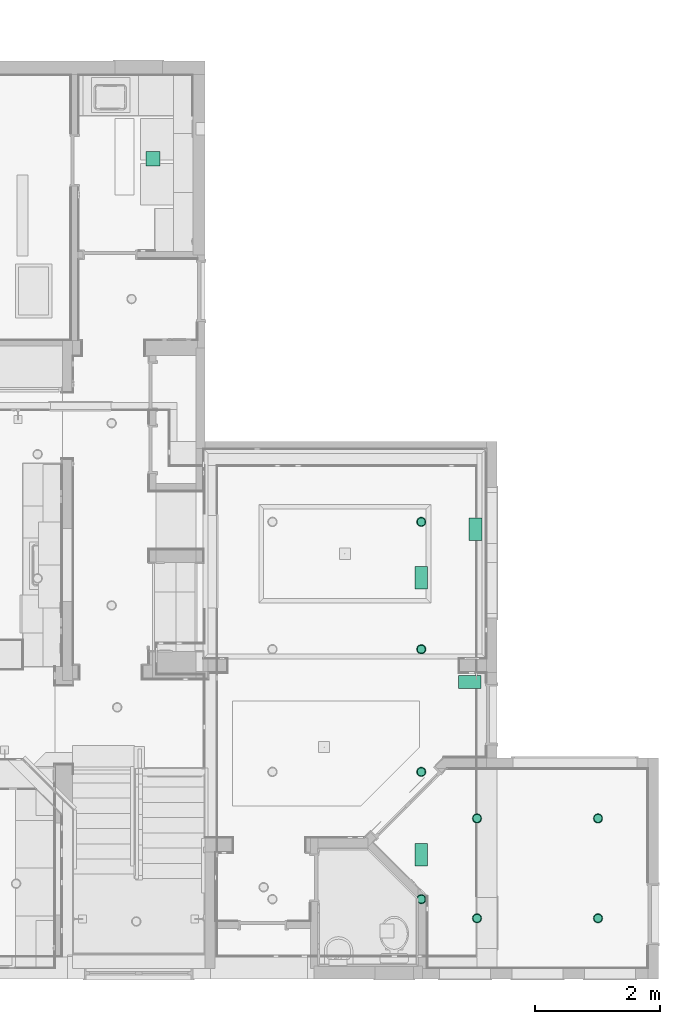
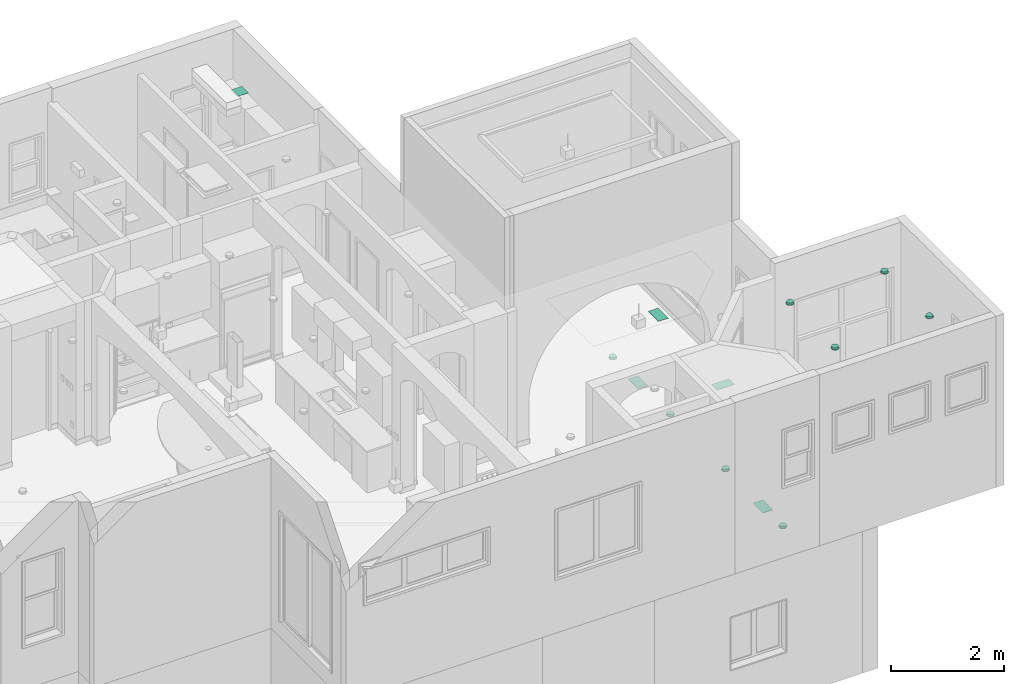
# One storey, part 44 of 60: 13 flow terminals.
"""IFC2X3 building model written with IfcOpenShell, lengths in feet."""

from ifc_helpers import new_model, entity, si_unit, converted_unit, direction, frame, frame_2d, origin, origin_2d_with_axis, place, context, subcontext, project, spatial, rectangle, extrude, faceted_brep, source, transform, mapped, material, material_list, type_object, type_shapes, element, save


model = new_model("IFC2X3")

# Units and contexts
model_context = context("Model", 3, precision=0.0001, world=origin(), true_north=direction((6.123031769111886e-17, 1.0)))
plan_context = context("Plan", 3, precision=0.0001, world=origin(), true_north=direction((6.123031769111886e-17, 1.0)))
body_context = subcontext(model_context, "Body", "Model", "MODEL_VIEW")
ifc_project = project(units=[converted_unit("LENGTHUNIT", "FOOT", entity("IfcLengthMeasure", 0.3048), si_unit("LENGTHUNIT", "METRE"), dimensions=[1, 0, 0, 0, 0, 0, 0]), converted_unit("AREAUNIT", "SQUARE FOOT", entity("IfcAreaMeasure", 0.09290304), si_unit("AREAUNIT", "SQUARE_METRE"), dimensions=[2, 0, 0, 0, 0, 0, 0]), converted_unit("PLANEANGLEUNIT", "DEGREE", entity("IfcPlaneAngleMeasure", 0.017453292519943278), si_unit("PLANEANGLEUNIT", "RADIAN"), dimensions=[0, 0, 0, 0, 0, 0, 0])], contexts=[model_context, plan_context])

# Site, building, storey
site_placement = place(None, origin())
site = spatial("IfcSite", under=ifc_project, at=site_placement, Name="Default", CompositionType="ELEMENT")
building_placement = place(site_placement, origin())
building = spatial("IfcBuilding", under=site, at=building_placement, CompositionType="ELEMENT")
storey_placement = place(building_placement, origin())
storey = spatial("IfcBuildingStorey", under=building, at=storey_placement, Name="First floor", CompositionType="ELEMENT", Elevation=0.0)

# Flow terminals
ifc_material_1 = material(Name="Default New Material")
ifc_material_2 = material(Name="Glass, White, High Luminance")
ifc_material_list = material_list([ifc_material_1, ifc_material_2])
light_fixture_type = type_object("IfcLightFixtureType", Name="C_Spotlight Recessed:Light 2", PredefinedType="NOTDEFINED", material=ifc_material_list)
shared_shape_1 = source(origin(), body_context, "Body", "Brep", [
    faceted_brep([(-0.12499999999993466, 0.21650635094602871, 0.020833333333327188), (-0.17677669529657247, 0.17677669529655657, 0.020833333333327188), (-0.08333333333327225, 0.14433756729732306, 0.020833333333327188), (-0.04313650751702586, 0.1609876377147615, 0.020833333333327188), (-0.0647047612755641, 0.24148145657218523, 0.020833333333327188), (-0.11785113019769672, 0.11785113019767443, 0.020833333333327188), (-0.21650635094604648, 0.12499999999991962, 0.020833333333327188), (-0.1443375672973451, 0.08333333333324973, 0.020833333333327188), (-0.16098763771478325, 0.04313650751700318, 0.020833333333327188), (-0.2414814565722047, 0.06470476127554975, 0.020833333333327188), (-0.166666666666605, 0.0, 0.020833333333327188), (-0.24999999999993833, 0.0, 0.020833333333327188), (-0.16098763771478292, -0.043136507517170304, 0.020833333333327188), (-0.24148145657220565, -0.06470476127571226, 0.020833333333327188), (-0.14433756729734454, -0.08333333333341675, 0.020833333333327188), (-0.2165063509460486, -0.12500000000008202, 0.020833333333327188), (-0.117851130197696, -0.11785113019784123, 0.020833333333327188), (-0.1767766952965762, -0.17677669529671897, 0.020833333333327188), (-0.08333333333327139, -0.14433756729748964, 0.020833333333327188), (-0.12499999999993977, -0.21650635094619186, 0.020833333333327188), (-0.04313650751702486, -0.16098763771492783, 0.020833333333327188), (-0.06470476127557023, -0.24148145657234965, 0.020833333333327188), (0.0, -0.1666666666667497, 0.020833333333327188), (0.0, -0.25000000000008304, 0.020833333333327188), (0.04313650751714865, -0.1609876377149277, 0.020833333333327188), (0.06470476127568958, -0.24148145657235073, 0.020833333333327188), (0.08333333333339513, -0.1443375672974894, 0.020833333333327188), (0.12500000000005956, -0.21650635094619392, 0.020833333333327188), (0.11785113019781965, -0.11785113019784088, 0.020833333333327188), (0.1767766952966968, -0.1767766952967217, 0.020833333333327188), (0.14433756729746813, -0.0833333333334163, 0.020833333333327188), (0.21650635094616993, -0.12500000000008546, 0.020833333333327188), (0.24148145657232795, -0.06470476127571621, 0.020833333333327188), (0.16098763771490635, -0.0431365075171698, 0.020833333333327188), (0.2500000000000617, 0.0, 0.020833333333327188), (0.1666666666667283, 0.0, 0.020833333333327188), (0.24148145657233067, 0.06470476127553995, 0.020833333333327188), (0.16098763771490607, 0.04313650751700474, 0.020833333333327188), (0.21650635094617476, 0.12499999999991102, 0.020833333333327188), (0.14433756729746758, 0.08333333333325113, 0.020833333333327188), (0.17677669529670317, 0.17677669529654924, 0.020833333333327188), (0.1178511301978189, 0.11785113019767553, 0.020833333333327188), (0.1250000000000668, 0.21650635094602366, 0.020833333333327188), (0.08333333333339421, 0.14433756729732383, 0.020833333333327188), (0.06470476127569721, 0.2414814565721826, 0.020833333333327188), (0.04313650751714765, 0.16098763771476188, 0.020833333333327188), (0.0, 0.24999999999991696, 0.020833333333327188), (0.0, 0.1666666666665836, 0.020833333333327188), (-0.12499999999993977, -0.21650635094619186, 0.0), (-0.1767766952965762, -0.17677669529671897, 0.0), (-0.08333333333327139, -0.14433756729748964, 0.0), (-0.04313650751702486, -0.16098763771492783, 0.0), (-0.06470476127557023, -0.24148145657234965, 0.0), (-0.117851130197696, -0.11785113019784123, 0.0), (-0.2165063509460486, -0.12500000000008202, 0.0), (-0.14433756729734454, -0.08333333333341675, 0.0), (-0.16098763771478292, -0.043136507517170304, 0.0), (-0.24148145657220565, -0.06470476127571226, 0.0), (-0.166666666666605, 0.0, 0.0), (-0.24999999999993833, 0.0, 0.0), (-0.16098763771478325, 0.04313650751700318, 0.0), (-0.2414814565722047, 0.06470476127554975, 0.0), (-0.1443375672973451, 0.08333333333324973, 0.0), (-0.21650635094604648, 0.12499999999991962, 0.0), (-0.11785113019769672, 0.11785113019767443, 0.0), (-0.17677669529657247, 0.17677669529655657, 0.0), (-0.08333333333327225, 0.14433756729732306, 0.0), (-0.12499999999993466, 0.21650635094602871, 0.0), (-0.04313650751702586, 0.1609876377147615, 0.0), (-0.0647047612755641, 0.24148145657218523, 0.0), (0.0, 0.1666666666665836, 0.0), (0.0, 0.24999999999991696, 0.0), (0.04313650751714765, 0.16098763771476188, 0.0), (0.06470476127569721, 0.2414814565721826, 0.0), (0.08333333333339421, 0.14433756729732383, 0.0), (0.1250000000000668, 0.21650635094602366, 0.0), (0.1178511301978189, 0.11785113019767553, 0.0), (0.17677669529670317, 0.17677669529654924, 0.0), (0.14433756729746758, 0.08333333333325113, 0.0), (0.21650635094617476, 0.12499999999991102, 0.0), (0.24148145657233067, 0.06470476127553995, 0.0), (0.16098763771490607, 0.04313650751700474, 0.0), (0.2500000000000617, 0.0, 0.0), (0.1666666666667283, 0.0, 0.0), (0.24148145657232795, -0.06470476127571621, 0.0), (0.16098763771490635, -0.0431365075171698, 0.0), (0.21650635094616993, -0.12500000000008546, 0.0), (0.14433756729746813, -0.0833333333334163, 0.0), (0.1767766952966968, -0.1767766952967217, 0.0), (0.11785113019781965, -0.11785113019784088, 0.0), (0.12500000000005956, -0.21650635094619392, 0.0), (0.08333333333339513, -0.1443375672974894, 0.0), (0.06470476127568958, -0.24148145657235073, 0.0), (0.04313650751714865, -0.1609876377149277, 0.0), (0.0, -0.25000000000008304, 0.0), (0.0, -0.1666666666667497, 0.0)], [[[0, 1, 2]], [[0, 2, 3]], [[3, 4, 0]], [[2, 1, 5]], [[6, 5, 1]], [[7, 5, 6]], [[8, 7, 6]], [[8, 6, 9]], [[8, 9, 10]], [[10, 9, 11]], [[12, 10, 11]], [[12, 11, 13]], [[14, 12, 13]], [[14, 13, 15]], [[16, 14, 15]], [[15, 17, 16]], [[17, 18, 16]], [[18, 17, 19]], [[18, 19, 20]], [[21, 20, 19]], [[20, 21, 22]], [[22, 21, 23]], [[23, 24, 22]], [[24, 23, 25]], [[24, 25, 26]], [[27, 26, 25]], [[27, 28, 26]], [[27, 29, 28]], [[30, 28, 29]], [[31, 30, 29]], [[32, 30, 31]], [[33, 30, 32]], [[33, 32, 34]], [[34, 35, 33]], [[36, 35, 34]], [[36, 37, 35]], [[37, 36, 38]], [[39, 37, 38]], [[39, 38, 40]], [[39, 40, 41]], [[40, 42, 41]], [[41, 42, 43]], [[43, 42, 44]], [[44, 45, 43]], [[46, 45, 44]], [[4, 47, 46]], [[45, 46, 47]], [[4, 3, 47]], [[48, 49, 50]], [[48, 50, 51]], [[51, 52, 48]], [[50, 49, 53]], [[54, 53, 49]], [[55, 53, 54]], [[56, 55, 54]], [[56, 54, 57]], [[56, 57, 58]], [[58, 57, 59]], [[60, 58, 59]], [[60, 59, 61]], [[62, 60, 61]], [[62, 61, 63]], [[64, 62, 63]], [[63, 65, 64]], [[65, 66, 64]], [[66, 65, 67]], [[66, 67, 68]], [[69, 68, 67]], [[68, 69, 70]], [[70, 69, 71]], [[71, 72, 70]], [[72, 71, 73]], [[72, 73, 74]], [[75, 74, 73]], [[75, 76, 74]], [[75, 77, 76]], [[78, 76, 77]], [[79, 78, 77]], [[80, 78, 79]], [[81, 78, 80]], [[81, 80, 82]], [[82, 83, 81]], [[84, 83, 82]], [[84, 85, 83]], [[85, 84, 86]], [[87, 85, 86]], [[87, 86, 88]], [[87, 88, 89]], [[88, 90, 89]], [[89, 90, 91]], [[91, 90, 92]], [[92, 93, 91]], [[94, 93, 92]], [[52, 95, 94]], [[93, 94, 95]], [[52, 51, 95]], [[10, 58, 60, 8]], [[8, 60, 62, 7]], [[2, 5, 64, 66]], [[62, 64, 5, 7]], [[3, 2, 66, 68]], [[70, 47, 3, 68]], [[45, 72, 74, 43]], [[43, 74, 76, 41]], [[37, 39, 78, 81]], [[76, 78, 39, 41]], [[35, 37, 81, 83]], [[45, 47, 70, 72]], [[35, 83, 85, 33]], [[33, 85, 87, 30]], [[26, 28, 89, 91]], [[87, 89, 28, 30]], [[24, 26, 91, 93]], [[95, 22, 24, 93]], [[20, 51, 50, 18]], [[18, 50, 53, 16]], [[12, 14, 55, 56]], [[53, 55, 14, 16]], [[10, 12, 56, 58]], [[20, 22, 95, 51]], [[57, 13, 11, 59]], [[54, 15, 13, 57]], [[19, 17, 49, 48]], [[54, 49, 17, 15]], [[21, 19, 48, 52]], [[23, 21, 52, 94]], [[92, 25, 23, 94]], [[90, 27, 25, 92]], [[31, 29, 88, 86]], [[90, 88, 29, 27]], [[32, 31, 86, 84]], [[34, 32, 84, 82]], [[80, 36, 34, 82]], [[79, 38, 36, 80]], [[42, 40, 77, 75]], [[79, 77, 40, 38]], [[44, 42, 75, 73]], [[46, 44, 73, 71]], [[69, 4, 46, 71]], [[67, 0, 4, 69]], [[6, 1, 65, 63]], [[67, 65, 1, 0]], [[9, 6, 63, 61]], [[11, 9, 61, 59]]]),
    faceted_brep([(0.043136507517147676, -0.160987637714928, 0.020833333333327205), (0.08333333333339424, -0.14433756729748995, 0.020833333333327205), (0.11785113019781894, -0.11785113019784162, 0.020833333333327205), (0.14433756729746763, -0.08333333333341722, 0.020833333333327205), (0.16098763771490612, -0.043136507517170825, 0.020833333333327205), (0.16666666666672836, 0.0, 0.020833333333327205), (0.1609876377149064, 0.04313650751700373, 0.020833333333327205), (0.1443375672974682, 0.08333333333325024, 0.020833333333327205), (0.11785113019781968, 0.11785113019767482, 0.020833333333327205), (0.08333333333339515, 0.14433756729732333, 0.020833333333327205), (0.043136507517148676, 0.16098763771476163, 0.020833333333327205), (0.0, 0.16666666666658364, 0.020833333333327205), (-0.04313650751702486, 0.16098763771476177, 0.020833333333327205), (-0.08333333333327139, 0.14433756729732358, 0.020833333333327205), (-0.117851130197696, 0.11785113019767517, 0.020833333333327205), (-0.1443375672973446, 0.08333333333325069, 0.020833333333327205), (-0.16098763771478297, 0.043136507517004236, 0.020833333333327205), (-0.166666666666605, 0.0, 0.020833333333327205), (-0.1609876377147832, -0.04313650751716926, 0.020833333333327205), (-0.14433756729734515, -0.08333333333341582, 0.020833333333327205), (-0.11785113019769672, -0.11785113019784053, 0.020833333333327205), (-0.08333333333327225, -0.14433756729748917, 0.020833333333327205), (-0.04313650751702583, -0.1609876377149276, 0.020833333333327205), (0.0, -0.16666666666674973, 0.020833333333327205), (0.043136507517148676, 0.16098763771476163, 0.0), (0.08333333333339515, 0.14433756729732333, 0.0), (0.11785113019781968, 0.11785113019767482, 0.0), (0.1443375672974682, 0.08333333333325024, 0.0), (0.1609876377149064, 0.04313650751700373, 0.0), (0.16666666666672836, 0.0, 0.0), (0.16098763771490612, -0.043136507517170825, 0.0), (0.14433756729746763, -0.08333333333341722, 0.0), (0.11785113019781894, -0.11785113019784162, 0.0), (0.08333333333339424, -0.14433756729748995, 0.0), (0.043136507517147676, -0.160987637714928, 0.0), (0.0, -0.16666666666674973, 0.0), (-0.04313650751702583, -0.1609876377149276, 0.0), (-0.08333333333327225, -0.14433756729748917, 0.0), (-0.11785113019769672, -0.11785113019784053, 0.0), (-0.14433756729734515, -0.08333333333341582, 0.0), (-0.1609876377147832, -0.04313650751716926, 0.0), (-0.166666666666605, 0.0, 0.0), (-0.16098763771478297, 0.043136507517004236, 0.0), (-0.1443375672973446, 0.08333333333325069, 0.0), (-0.117851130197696, 0.11785113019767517, 0.0), (-0.08333333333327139, 0.14433756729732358, 0.0), (-0.04313650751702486, 0.16098763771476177, 0.0), (0.0, 0.16666666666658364, 0.0)], [[[0, 1, 2, 3, 4, 5, 6, 7, 8, 9, 10, 11, 12, 13, 14, 15, 16, 17, 18, 19, 20, 21, 22, 23]], [[24, 25, 26, 27, 28, 29, 30, 31, 32, 33, 34, 35, 36, 37, 38, 39, 40, 41, 42, 43, 44, 45, 46, 47]], [[40, 18, 17, 41]], [[39, 19, 18, 40]], [[21, 20, 38, 37]], [[39, 38, 20, 19]], [[22, 21, 37, 36]], [[23, 22, 36, 35]], [[34, 0, 23, 35]], [[33, 1, 0, 34]], [[3, 2, 32, 31]], [[33, 32, 2, 1]], [[4, 3, 31, 30]], [[5, 4, 30, 29]], [[28, 6, 5, 29]], [[27, 7, 6, 28]], [[9, 8, 26, 25]], [[27, 26, 8, 7]], [[10, 9, 25, 24]], [[11, 10, 24, 47]], [[46, 12, 11, 47]], [[45, 13, 12, 46]], [[15, 14, 44, 43]], [[45, 44, 14, 13]], [[16, 15, 43, 42]], [[17, 16, 42, 41]]]),
    faceted_brep([(0.0, -0.16666666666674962, -0.10416666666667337), (0.04313650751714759, -0.1609876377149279, -0.10416666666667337), (0.08333333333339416, -0.1443375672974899, -0.10416666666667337), (0.1178511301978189, -0.11785113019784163, -0.10416666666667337), (0.1443375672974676, -0.08333333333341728, -0.10416666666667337), (0.16098763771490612, -0.043136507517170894, -0.10416666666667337), (0.16666666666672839, 0.0, -0.10416666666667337), (0.16098763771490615, 0.04313650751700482, -0.10416666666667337), (0.14433756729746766, 0.08333333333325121, -0.10416666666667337), (0.11785113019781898, 0.11785113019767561, -0.10416666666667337), (0.0833333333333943, 0.14433756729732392, -0.10416666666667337), (0.04313650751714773, 0.16098763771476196, -0.10416666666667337), (0.0, 0.1666666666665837, -0.10416666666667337), (-0.043136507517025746, 0.16098763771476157, -0.10416666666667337), (-0.08333333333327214, 0.14433756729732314, -0.10416666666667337), (-0.11785113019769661, 0.11785113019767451, -0.10416666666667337), (-0.14433756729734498, 0.08333333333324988, -0.10416666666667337), (-0.16098763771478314, 0.04313650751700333, -0.10416666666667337), (-0.16666666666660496, 0.0, -0.10416666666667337), (-0.16098763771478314, -0.04313650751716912, -0.10416666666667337), (-0.1443375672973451, -0.08333333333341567, -0.10416666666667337), (-0.11785113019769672, -0.11785113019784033, -0.10416666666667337), (-0.08333333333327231, -0.14433756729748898, -0.10416666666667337), (-0.04313650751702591, -0.16098763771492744, -0.10416666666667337), (0.0, 0.20833333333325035, -0.12500000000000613), (0.053920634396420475, 0.20123454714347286, -0.12500000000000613), (0.10416666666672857, 0.18042195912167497, -0.12500000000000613), (0.14731391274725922, 0.14731391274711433, -0.12500000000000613), (0.18042195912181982, 0.1041666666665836, -0.12500000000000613), (0.2012345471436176, 0.053920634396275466, -0.12500000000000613), (0.20833333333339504, 0.0, -0.12500000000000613), (0.20123454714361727, -0.0539206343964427, -0.12500000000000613), (0.18042195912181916, -0.10416666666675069, -0.12500000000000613), (0.1473139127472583, -0.14731391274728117, -0.12500000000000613), (0.10416666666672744, -0.18042195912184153, -0.12500000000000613), (0.053920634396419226, -0.2012345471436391, -0.12500000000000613), (0.0, -0.20833333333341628, -0.12500000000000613), (-0.05392063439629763, -0.20123454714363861, -0.12500000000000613), (-0.10416666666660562, -0.18042195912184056, -0.12500000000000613), (-0.14731391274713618, -0.1473139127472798, -0.12500000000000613), (-0.18042195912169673, -0.10416666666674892, -0.12500000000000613), (-0.20123454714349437, -0.05392063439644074, -0.12500000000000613), (-0.2083333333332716, 0.0, -0.12500000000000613), (-0.20123454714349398, 0.053920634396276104, -0.12500000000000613), (-0.18042195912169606, 0.10416666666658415, -0.12500000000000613), (-0.1473139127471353, 0.14731391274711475, -0.12500000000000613), (-0.10416666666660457, 0.1804219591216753, -0.12500000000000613), (-0.05392063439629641, 0.20123454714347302, -0.12500000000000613), (-0.2012345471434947, -0.053920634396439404, -0.10416666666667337), (-0.20123454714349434, -0.053920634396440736, 0.0), (-0.20833333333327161, 0.0, 0.0), (-0.2083333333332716, 0.0, -0.10416666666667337), (-0.1804219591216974, -0.10416666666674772, -0.10416666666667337), (-0.1804219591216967, -0.10416666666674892, 0.0), (-0.10416666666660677, -0.18042195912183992, -0.10416666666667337), (-0.10416666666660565, -0.18042195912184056, 0.0), (-0.1473139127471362, -0.1473139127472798, 0.0), (-0.14731391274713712, -0.14731391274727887, -0.10416666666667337), (-0.053920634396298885, -0.20123454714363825, -0.10416666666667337), (-0.05392063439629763, -0.20123454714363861, 0.0), (0.0, -0.20833333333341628, -0.10416666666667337), (0.0, -0.20833333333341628, 0.0), (0.05392063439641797, -0.20123454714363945, -0.10416666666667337), (0.053920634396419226, -0.2012345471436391, 0.0), (0.10416666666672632, -0.1804219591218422, -0.10416666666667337), (0.10416666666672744, -0.18042195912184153, 0.0), (0.1804219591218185, -0.1041666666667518, -0.10416666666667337), (0.18042195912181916, -0.10416666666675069, 0.0), (0.1473139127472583, -0.14731391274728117, 0.0), (0.1473139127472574, -0.1473139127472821, -0.10416666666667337), (0.20123454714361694, -0.05392063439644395, -0.10416666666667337), (0.20123454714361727, -0.05392063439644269, 0.0), (0.20833333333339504, 0.0, -0.10416666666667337), (0.20833333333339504, 0.0, 0.0), (0.2012345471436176, 0.053920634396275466, -0.10416666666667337), (0.2012345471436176, 0.05392063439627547, 0.0), (0.18042195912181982, 0.1041666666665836, -0.10416666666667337), (0.18042195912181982, 0.1041666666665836, 0.0), (0.10416666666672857, 0.18042195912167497, -0.10416666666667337), (0.10416666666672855, 0.18042195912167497, 0.0), (0.14731391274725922, 0.14731391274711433, 0.0), (0.14731391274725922, 0.14731391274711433, -0.10416666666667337), (0.053920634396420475, 0.20123454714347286, -0.10416666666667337), (0.053920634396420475, 0.20123454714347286, 0.0), (0.0, 0.20833333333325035, -0.10416666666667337), (0.0, 0.20833333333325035, 0.0), (-0.05392063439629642, 0.20123454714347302, -0.10416666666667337), (-0.05392063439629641, 0.20123454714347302, 0.0), (-0.10416666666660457, 0.1804219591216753, -0.10416666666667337), (-0.10416666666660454, 0.1804219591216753, 0.0), (-0.18042195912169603, 0.10416666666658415, -0.10416666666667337), (-0.18042195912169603, 0.10416666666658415, 0.0), (-0.14731391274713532, 0.14731391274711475, 0.0), (-0.14731391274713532, 0.14731391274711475, -0.10416666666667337), (-0.20123454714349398, 0.053920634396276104, -0.10416666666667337), (-0.20123454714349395, 0.05392063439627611, 0.0), (-0.08333333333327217, 0.14433756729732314, 0.0), (-0.043136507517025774, 0.16098763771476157, 0.0), (-0.11785113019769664, 0.11785113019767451, 0.0), (-0.144337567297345, 0.08333333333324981, 0.0), (-0.16098763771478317, 0.04313650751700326, 0.0), (-0.16666666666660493, 0.0, 0.0), (-0.16098763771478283, -0.04313650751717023, 0.0), (-0.14433756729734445, -0.08333333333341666, 0.0), (-0.11785113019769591, -0.11785113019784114, 0.0), (-0.08333333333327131, -0.14433756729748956, 0.0), (-0.043136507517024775, -0.16098763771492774, 0.0), (0.0, -0.16666666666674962, 0.0), (0.04313650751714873, -0.1609876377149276, 0.0), (0.08333333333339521, -0.1443375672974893, 0.0), (0.11785113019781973, -0.1178511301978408, 0.0), (0.14433756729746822, -0.08333333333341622, 0.0), (0.16098763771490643, -0.04313650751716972, 0.0), (0.16666666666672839, 0.0, 0.0), (0.16098763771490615, 0.04313650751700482, 0.0), (0.14433756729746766, 0.08333333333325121, 0.0), (0.11785113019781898, 0.11785113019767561, 0.0), (0.0833333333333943, 0.14433756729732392, 0.0), (0.04313650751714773, 0.16098763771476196, 0.0), (0.0, 0.1666666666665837, 0.0)], [[[0, 1, 2, 3, 4, 5, 6, 7, 8, 9, 10, 11, 12, 13, 14, 15, 16, 17, 18, 19, 20, 21, 22, 23]], [[24, 25, 26, 27, 28, 29, 30, 31, 32, 33, 34, 35, 36, 37, 38, 39, 40, 41, 42, 43, 44, 45, 46, 47]], [[41, 48, 49, 50, 51, 42]], [[40, 52, 53, 49, 48, 41]], [[54, 55, 56, 57, 39, 38]], [[40, 39, 57, 56, 53, 52]], [[58, 59, 55, 54, 38, 37]], [[60, 61, 59, 58, 37, 36]], [[35, 62, 63, 61, 60, 36]], [[34, 64, 65, 63, 62, 35]], [[66, 67, 68, 69, 33, 32]], [[34, 33, 69, 68, 65, 64]], [[70, 71, 67, 66, 32, 31]], [[72, 73, 71, 70, 31, 30]], [[29, 74, 75, 73, 72, 30]], [[28, 76, 77, 75, 74, 29]], [[78, 79, 80, 81, 27, 26]], [[28, 27, 81, 80, 77, 76]], [[82, 83, 79, 78, 26, 25]], [[84, 85, 83, 82, 25, 24]], [[47, 86, 87, 85, 84, 24]], [[46, 88, 89, 87, 86, 47]], [[90, 91, 92, 93, 45, 44]], [[46, 45, 93, 92, 89, 88]], [[94, 95, 91, 90, 44, 43]], [[51, 50, 95, 94, 43, 42]], [[89, 92, 96]], [[89, 96, 97]], [[97, 87, 89]], [[96, 92, 98]], [[91, 98, 92]], [[99, 98, 91]], [[100, 99, 91]], [[100, 91, 95]], [[100, 95, 101]], [[101, 95, 50]], [[102, 101, 50]], [[102, 50, 49]], [[103, 102, 49]], [[103, 49, 53]], [[104, 103, 53]], [[53, 56, 104]], [[56, 105, 104]], [[105, 56, 55]], [[105, 55, 106]], [[59, 106, 55]], [[106, 59, 107]], [[107, 59, 61]], [[61, 108, 107]], [[108, 61, 63]], [[108, 63, 109]], [[65, 109, 63]], [[65, 110, 109]], [[65, 68, 110]], [[111, 110, 68]], [[67, 111, 68]], [[71, 111, 67]], [[112, 111, 71]], [[112, 71, 73]], [[73, 113, 112]], [[75, 113, 73]], [[75, 114, 113]], [[114, 75, 77]], [[115, 114, 77]], [[115, 77, 80]], [[115, 80, 116]], [[80, 79, 116]], [[116, 79, 117]], [[117, 79, 83]], [[83, 118, 117]], [[85, 118, 83]], [[87, 119, 85]], [[85, 119, 118]], [[87, 97, 119]], [[113, 6, 5, 112]], [[112, 5, 4, 111]], [[109, 110, 3, 2]], [[4, 3, 110, 111]], [[108, 109, 2, 1]], [[0, 107, 108, 1]], [[104, 105, 22, 21]], [[23, 22, 105, 106]], [[102, 103, 20, 19]], [[104, 21, 20, 103]], [[102, 19, 18, 101]], [[0, 23, 106, 107]], [[101, 18, 17, 100]], [[100, 17, 16, 99]], [[96, 98, 15, 14]], [[16, 15, 98, 99]], [[97, 96, 14, 13]], [[12, 119, 97, 13]], [[118, 11, 10, 117]], [[117, 10, 9, 116]], [[114, 115, 8, 7]], [[9, 8, 115, 116]], [[113, 114, 7, 6]], [[118, 119, 12, 11]]]),
])
type_shapes(light_fixture_type, [shared_shape_1])
for number, where, z_axis, x_axis, name in (
    (1, (40.95833204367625, 3.1666176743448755, 20.666666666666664), (0.0, 0.0, -1.0), (1.0, -7.7356313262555e-06, 0.0), "C_Spotlight Recessed:Light 2"),
    (2, (40.95833204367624, 8.395784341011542, 20.666666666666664), (0.0, 0.0, -1.0), (1.0, -7.7356313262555e-06, 0.0), "C_Spotlight Recessed:Light 2"),
    (3, (34.624998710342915, 3.166617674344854, 20.666666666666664), (0.0, 0.0, -1.0), (1.0, -7.7356313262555e-06, 0.0), "C_Spotlight Recessed:Light 2"),
    (4, (34.62499871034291, 8.39578434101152, 20.666666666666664), (0.0, 0.0, -1.0), (1.0, -7.7356313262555e-06, 0.0), "C_Spotlight Recessed:Light 2"),
    (5, (31.708333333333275, 4.166754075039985, 8.416666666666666), (0.0, 0.0, -1.0), (0.0, -1.0, 0.0), "C_Spotlight Recessed:Light 2"),
    (6, (31.708333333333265, 10.833420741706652, 8.416666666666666), (0.0, 0.0, -1.0), (0.0, -1.0, 0.0), "C_Spotlight Recessed:Light 2"),
    (7, (31.708333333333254, 17.250087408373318, 8.416666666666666), (0.0, 0.0, -1.0), (0.0, -1.0, 0.0), "C_Spotlight Recessed:Light 2"),
    (8, (31.708333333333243, 23.916754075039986, 8.416666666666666), (0.0, 0.0, -1.0), (0.0, -1.0, 0.0), "C_Spotlight Recessed:Light 2"),
):
    element("IfcFlowTerminal", number, at=place(storey_placement, frame(where, z_axis=z_axis, x_axis=x_axis)), inside=storey, type_object=light_fixture_type, material=ifc_material_list, Name=name, ObjectType="C_Spotlight Recessed:Light 2", context=body_context, shape_type="MappedRepresentation", body=[
        mapped(shared_shape_1, transform((0.0, 0.0, 0.0), scale=1.0)),
    ])
air_terminal_type_1 = type_object("IfcAirTerminalType", Name="C_Grill_Surface Based:Standard 2", PredefinedType="NOTDEFINED", material=ifc_material_1)
shared_shape_2 = source(origin(), body_context, "Body", "SweptSolid", [
    extrude(rectangle(XDim=0.6666666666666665, YDim=1.1666666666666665, at=frame_2d((-2.7755575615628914e-17, 0.0), x_axis=(1.0, 0.0))), frame((0.0, 0.0, 0.0), z_axis=(0.0, 0.0, 1.0), x_axis=(-1.0, 0.0, 0.0)), (0.0, 0.0, 1.0), 0.020833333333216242),
])
type_shapes(air_terminal_type_1, [shared_shape_2])
for number, where, z_axis, x_axis, name in (
    (9, (34.25, 15.541667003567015, 10.666666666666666), (0.0, 0.0, 1.0), (0.0, -1.0, 0.0), "C_Grill_Surface Based:Standard 2"),
    (10, (31.708333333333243, 21.0, 8.416666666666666), (0.0, 0.0, -1.0), (1.0, 0.0, 0.0), "C_Grill_Surface Based:Standard 2"),
    (11, (31.708333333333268, 6.49999999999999, 8.416666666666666), (0.0, 0.0, -1.0), (1.0, 0.0, 0.0), "C_Grill_Surface Based:Standard 2"),
):
    element("IfcFlowTerminal", number, at=place(storey_placement, frame(where, z_axis=z_axis, x_axis=x_axis)), inside=storey, type_object=air_terminal_type_1, material=ifc_material_1, Name=name, ObjectType="C_Grill_Surface Based:Standard 2", context=body_context, shape_type="MappedRepresentation", body=[
        mapped(shared_shape_2, transform((0.0, 0.0, 0.0), scale=1.0)),
    ])
flow_terminal_1_placement = place(storey_placement, frame((34.54166666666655, 23.535683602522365, 10.666666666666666)))
element("IfcFlowTerminal", 12, at=flow_terminal_1_placement, inside=storey, type_object=air_terminal_type_1, material=ifc_material_1, Name="C_Grill_Surface Based:Standard 2", ObjectType="C_Grill_Surface Based:Standard 2", context=body_context, shape_type="MappedRepresentation", body=[
    mapped(shared_shape_2, transform((0.0, 0.0, 0.0), scale=1.0)),
])
air_terminal_type_2 = type_object("IfcAirTerminalType", Name="C_Grill_Surface Based:Standard 2", PredefinedType="NOTDEFINED", material=ifc_material_1)
shared_shape_3 = source(origin(), body_context, "Body", "SweptSolid", [
    extrude(rectangle(XDim=0.75, YDim=0.7499999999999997, at=origin_2d_with_axis()), frame((0.0, 0.0, 0.0), z_axis=(0.0, 0.0, 1.0), x_axis=(-1.0, 0.0, 0.0)), (0.0, 0.0, 1.0), 0.020833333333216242),
])
type_shapes(air_terminal_type_2, [shared_shape_3])
flow_terminal_2_placement = place(storey_placement, frame((17.666666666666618, 42.91632150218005, 20.666666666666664), z_axis=(0.0, 0.0, -1.0), x_axis=(1.0, 0.0, 0.0)))
element("IfcFlowTerminal", 13, at=flow_terminal_2_placement, inside=storey, type_object=air_terminal_type_2, material=ifc_material_1, Name="C_Grill_Surface Based:Standard 2", ObjectType="C_Grill_Surface Based:Standard 2", context=body_context, shape_type="MappedRepresentation", body=[
    mapped(shared_shape_3, transform((0.0, 0.0, 0.0), scale=1.0)),
])

save(model, "model.ifc")
